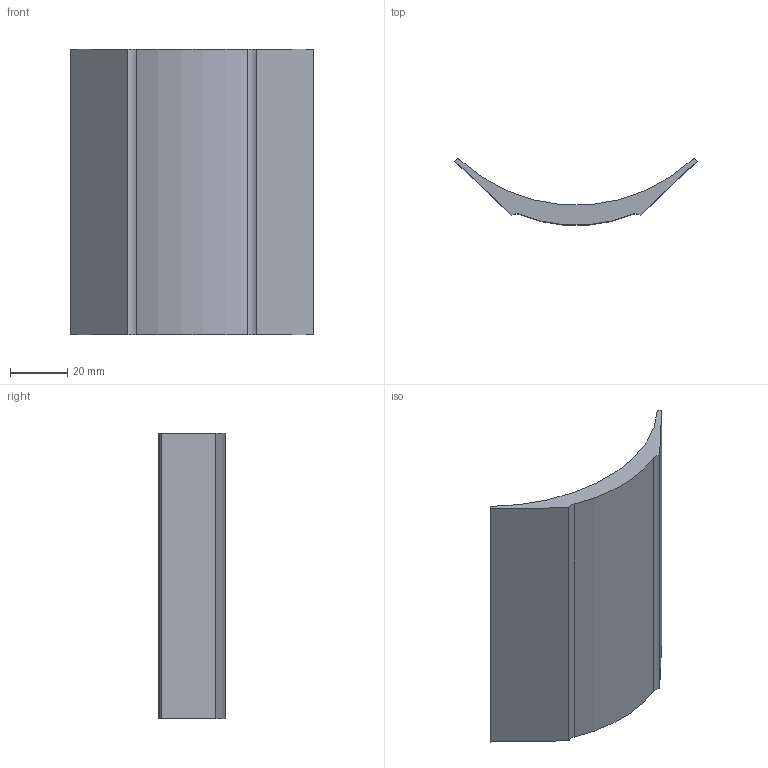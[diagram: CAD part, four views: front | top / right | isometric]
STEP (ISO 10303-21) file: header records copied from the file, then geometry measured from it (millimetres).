
FILE_DESCRIPTION (( 'STEP AP203' ), '1' );
FILE_NAME ('NOMASTYLPURE_NE2_00.step', '2017-10-18T04:58:59', ( '' ), ( '' ), 'SwSTEP 2.0', 'SolidWorks 2017', '' );
FILE_SCHEMA (( 'CONFIG_CONTROL_DESIGN' ));
Length unit declared in the file: millimetre
Products named in the file (1): NOMASTYLPURE_NE2_00
Bounding box: 84.85 x 23.19 x 100 mm (x, y, z)
Volume: 46428.8 mm3; surface area: 20435.8 mm2
Topology: 1 solids, 1 shells, 12 faces, 30 edges, 20 vertices
Faces by surface type: cylinder 6, plane 6
Entity records: 443 total; most frequent: DIRECTION 68, CARTESIAN_POINT 63, ORIENTED_EDGE 60, EDGE_CURVE 30, AXIS2_PLACEMENT_3D 25, VERTEX_POINT 20, VECTOR 18, LINE 18
